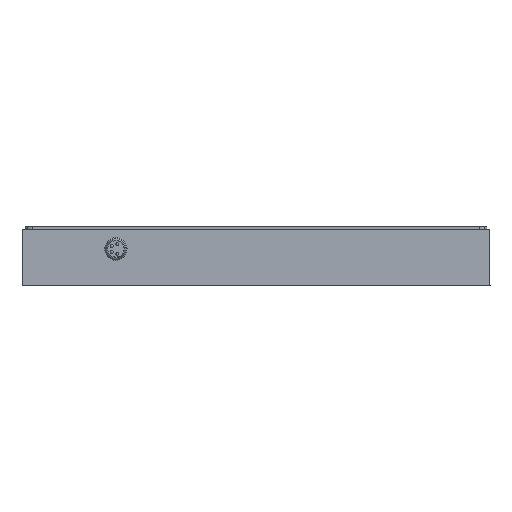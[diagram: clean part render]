
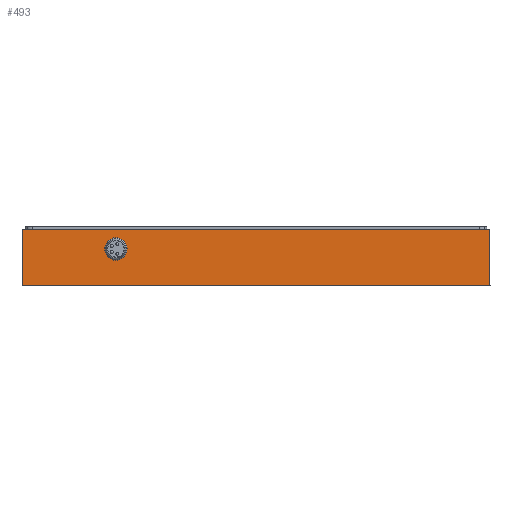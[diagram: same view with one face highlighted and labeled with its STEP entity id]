
A CAD part, front view. The second image highlights one B-rep face of the part: STEP entity #493.
In plain terms, the highlighted planar face has unit normal (0, -1, 0).
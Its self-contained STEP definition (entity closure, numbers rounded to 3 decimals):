
#493=ADVANCED_FACE('3:471',(#1263,#1264),#1265,.T.);
#1263=FACE_BOUND('',#2335,.T.);
#1264=FACE_OUTER_BOUND('',#2336,.T.);
#1265=PLANE('',#2337);
#2335=EDGE_LOOP('',(#3701,#3702));
#2336=EDGE_LOOP('',(#3703,#3704,#3705,#3706));
#2337=AXIS2_PLACEMENT_3D('',#3707,#3708,#3709);
#3701=ORIENTED_EDGE('',*,*,#6561,.T.);
#3702=ORIENTED_EDGE('',*,*,#6562,.T.);
#3703=ORIENTED_EDGE('',*,*,#6563,.T.);
#3704=ORIENTED_EDGE('',*,*,#6564,.F.);
#3705=ORIENTED_EDGE('',*,*,#6565,.F.);
#3706=ORIENTED_EDGE('',*,*,#6566,.T.);
#3707=CARTESIAN_POINT('',(-40.0,-43.5,-18.0));
#3708=DIRECTION('',(0.,-1.0,0.0));
#3709=DIRECTION('',(1.0,0.,0.0));
#6561=EDGE_CURVE('',#7928,#7929,#7930,.T.);
#6562=EDGE_CURVE('',#7929,#7928,#7931,.T.);
#6563=EDGE_CURVE('',#7932,#7933,#7934,.T.);
#6564=EDGE_CURVE('',#7935,#7933,#7936,.T.);
#6565=EDGE_CURVE('',#7937,#7935,#7938,.T.);
#6566=EDGE_CURVE('',#7937,#7932,#7939,.F.);
#7928=VERTEX_POINT('',#10022);
#7929=VERTEX_POINT('',#10023);
#7930=CIRCLE('',#10024,3.35);
#7931=CIRCLE('',#10025,3.35);
#7932=VERTEX_POINT('',#10026);
#7933=VERTEX_POINT('',#10027);
#7934=LINE('',#10028,#10029);
#7935=VERTEX_POINT('',#10030);
#7936=LINE('',#10031,#10032);
#7937=VERTEX_POINT('',#10033);
#7938=LINE('',#10034,#10035);
#7939=LINE('',#10036,#10037);
#10022=CARTESIAN_POINT('',(-53.35,-43.5,-5.));
#10023=CARTESIAN_POINT('',(-46.65,-43.5,-5.));
#10024=AXIS2_PLACEMENT_3D('',#12380,#12381,#12382);
#10025=AXIS2_PLACEMENT_3D('',#12383,#12384,#12385);
#10026=CARTESIAN_POINT('',(83.5,-43.5,2.0));
#10027=CARTESIAN_POINT('',(-83.5,-43.5,2.0));
#10028=CARTESIAN_POINT('',(3.5,-43.5,2.0));
#10029=VECTOR('',#12386,1.0);
#10030=CARTESIAN_POINT('',(-83.5,-43.5,-18.0));
#10031=CARTESIAN_POINT('',(-83.5,-43.5,-18.0));
#10032=VECTOR('',#12387,1.0);
#10033=CARTESIAN_POINT('',(83.5,-43.5,-18.0));
#10034=CARTESIAN_POINT('',(3.5,-43.5,-18.0));
#10035=VECTOR('',#12388,1.0);
#10036=CARTESIAN_POINT('',(83.5,-43.5,-18.0));
#10037=VECTOR('',#12389,1.0);
#12380=CARTESIAN_POINT('',(-50.0,-43.5,-5.0));
#12381=DIRECTION('',(0.,1.0,0.));
#12382=DIRECTION('',(1.,0.,0.));
#12383=CARTESIAN_POINT('',(-50.0,-43.5,-5.0));
#12384=DIRECTION('',(0.,1.0,0.));
#12385=DIRECTION('',(1.,0.,0.));
#12386=DIRECTION('',(-1.0,0.,0.0));
#12387=DIRECTION('',(0.0,0.0,1.0));
#12388=DIRECTION('',(-1.0,0.,0.0));
#12389=DIRECTION('',(0.0,0.0,-1.0));
